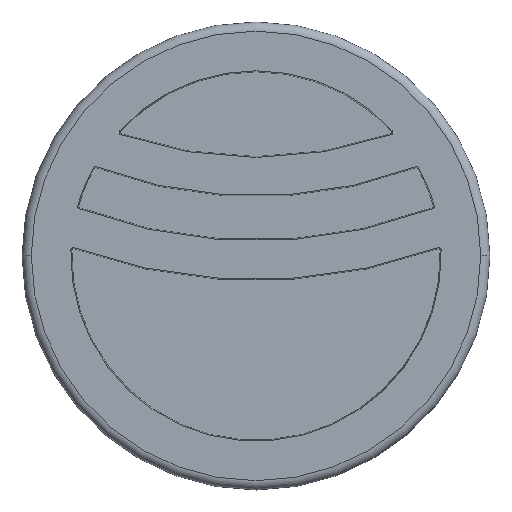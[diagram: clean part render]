
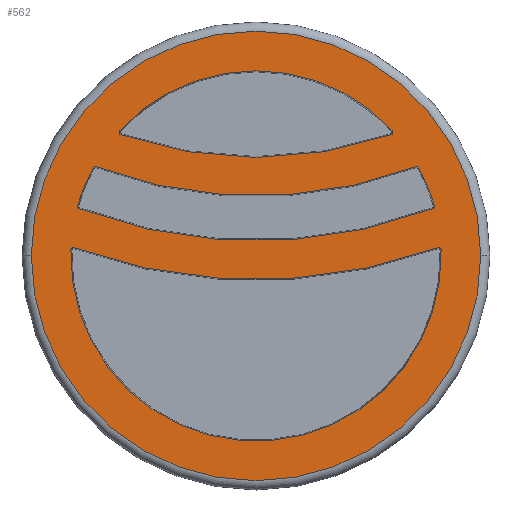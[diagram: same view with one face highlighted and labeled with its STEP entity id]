
A CAD part, top view. The second image highlights one B-rep face of the part: STEP entity #562.
In plain terms, the highlighted planar face has unit normal (0, 0, 1).
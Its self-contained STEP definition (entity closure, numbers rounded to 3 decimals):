
#77=CARTESIAN_POINT('',(-8.714,4.699,1.5));
#78=DIRECTION('',(0.,0.,-1.));
#79=DIRECTION('',(-0.88,0.475,0.));
#80=AXIS2_PLACEMENT_3D('',#77,#78,#79);
#119=CARTESIAN_POINT('',(0.,0.,1.5));
#120=DIRECTION('',(0.,0.,-1.));
#121=DIRECTION('',(1.,0.03,0.));
#122=AXIS2_PLACEMENT_3D('',#119,#120,#121);
#124=CARTESIAN_POINT('',(-9.523,2.706,1.5));
#125=DIRECTION('',(0.,0.,-1.));
#126=DIRECTION('',(-0.355,-0.935,0.));
#127=AXIS2_PLACEMENT_3D('',#124,#125,#126);
#137=CARTESIAN_POINT('',(9.523,2.706,1.5));
#138=DIRECTION('',(0.,0.,-1.));
#139=DIRECTION('',(0.962,0.273,0.));
#140=AXIS2_PLACEMENT_3D('',#137,#138,#139);
#142=CARTESIAN_POINT('',(0.,0.,1.5));
#143=DIRECTION('',(0.,0.,1.));
#144=DIRECTION('',(-1.,0.,0.));
#145=AXIS2_PLACEMENT_3D('',#142,#143,#144);
#147=CARTESIAN_POINT('',(0.,0.,1.5));
#148=DIRECTION('',(0.,0.,1.));
#149=DIRECTION('',(1.,0.,0.));
#150=AXIS2_PLACEMENT_3D('',#147,#148,#149);
#152=CARTESIAN_POINT('',(0.,0.,1.5));
#153=DIRECTION('',(0.,0.,-1.));
#154=DIRECTION('',(-0.734,0.679,0.));
#155=AXIS2_PLACEMENT_3D('',#152,#153,#154);
#157=CARTESIAN_POINT('',(0.,27.8,1.5));
#158=DIRECTION('',(0.,0.,-1.));
#159=DIRECTION('',(0.326,-0.945,0.));
#160=AXIS2_PLACEMENT_3D('',#157,#158,#159);
#162=CARTESIAN_POINT('',(0.,0.,1.5));
#163=DIRECTION('',(0.,0.,-1.));
#164=DIRECTION('',(0.88,0.475,0.));
#165=AXIS2_PLACEMENT_3D('',#162,#163,#164);
#167=CARTESIAN_POINT('',(0.,27.8,1.5));
#168=DIRECTION('',(0.,0.,1.));
#169=DIRECTION('',(-0.353,-0.936,0.));
#170=AXIS2_PLACEMENT_3D('',#167,#168,#169);
#172=CARTESIAN_POINT('',(0.,0.,1.5));
#173=DIRECTION('',(0.,0.,-1.));
#174=DIRECTION('',(-0.962,0.273,0.));
#175=AXIS2_PLACEMENT_3D('',#172,#173,#174);
#177=CARTESIAN_POINT('',(0.,27.8,1.5));
#178=DIRECTION('',(0.,0.,-1.));
#179=DIRECTION('',(0.355,-0.935,0.));
#180=AXIS2_PLACEMENT_3D('',#177,#178,#179);
#182=CARTESIAN_POINT('',(0.,27.8,1.5));
#183=DIRECTION('',(0.,0.,1.));
#184=DIRECTION('',(-0.339,-0.941,0.));
#185=AXIS2_PLACEMENT_3D('',#182,#183,#184);
#225=CARTESIAN_POINT('',(-7.271,6.719,1.5));
#226=DIRECTION('',(0.,0.,-1.));
#227=DIRECTION('',(-0.326,-0.945,0.));
#228=AXIS2_PLACEMENT_3D('',#225,#226,#227);
#238=CARTESIAN_POINT('',(7.271,6.719,1.5));
#239=DIRECTION('',(0.,0.,-1.));
#240=DIRECTION('',(0.734,0.679,0.));
#241=AXIS2_PLACEMENT_3D('',#238,#239,#240);
#243=CARTESIAN_POINT('',(8.714,4.699,1.5));
#244=DIRECTION('',(0.,0.,-1.));
#245=DIRECTION('',(-0.353,0.936,0.));
#246=AXIS2_PLACEMENT_3D('',#243,#244,#245);
#264=CARTESIAN_POINT('',(-9.896,0.296,1.5));
#265=DIRECTION('',(0.,0.,-1.));
#266=DIRECTION('',(-1.,0.03,0.));
#267=AXIS2_PLACEMENT_3D('',#264,#265,#266);
#269=CARTESIAN_POINT('',(9.896,0.296,1.5));
#270=DIRECTION('',(0.,0.,-1.));
#271=DIRECTION('',(-0.339,0.941,0.));
#272=AXIS2_PLACEMENT_3D('',#269,#270,#271);
#278=CARTESIAN_POINT('',(-12.2,0.,1.5));
#279=CARTESIAN_POINT('',(12.2,0.,1.5));
#280=VERTEX_POINT('',#278);
#281=VERTEX_POINT('',#279);
#290=CARTESIAN_POINT('',(-8.848,4.771,1.5));
#291=VERTEX_POINT('',#290);
#292=CARTESIAN_POINT('',(-8.66,4.841,1.5));
#293=VERTEX_POINT('',#292);
#295=CARTESIAN_POINT('',(-7.383,6.822,1.5));
#297=VERTEX_POINT('',#295);
#300=CARTESIAN_POINT('',(-7.321,6.575,1.5));
#301=VERTEX_POINT('',#300);
#306=CARTESIAN_POINT('',(7.383,6.822,1.5));
#307=VERTEX_POINT('',#306);
#308=CARTESIAN_POINT('',(7.321,6.575,1.5));
#309=VERTEX_POINT('',#308);
#311=CARTESIAN_POINT('',(8.848,4.771,1.5));
#313=VERTEX_POINT('',#311);
#316=CARTESIAN_POINT('',(8.66,4.841,1.5));
#317=VERTEX_POINT('',#316);
#322=CARTESIAN_POINT('',(-9.67,2.748,1.5));
#323=VERTEX_POINT('',#322);
#324=CARTESIAN_POINT('',(9.67,2.748,1.5));
#325=VERTEX_POINT('',#324);
#330=CARTESIAN_POINT('',(-10.048,0.301,1.5));
#331=VERTEX_POINT('',#330);
#332=CARTESIAN_POINT('',(-9.844,0.439,1.5));
#333=VERTEX_POINT('',#332);
#336=CARTESIAN_POINT('',(-9.577,2.564,1.5));
#337=VERTEX_POINT('',#336);
#339=CARTESIAN_POINT('',(10.048,0.301,1.5));
#341=VERTEX_POINT('',#339);
#344=CARTESIAN_POINT('',(9.844,0.439,1.5));
#345=VERTEX_POINT('',#344);
#348=CARTESIAN_POINT('',(9.577,2.564,1.5));
#349=VERTEX_POINT('',#348);
#521=CARTESIAN_POINT('',(0.,0.,1.5));
#522=DIRECTION('',(0.,0.,1.));
#523=DIRECTION('',(1.,0.,0.));
#524=AXIS2_PLACEMENT_3D('',#521,#522,#523);
#525=PLANE('',#524);
#527=ORIENTED_EDGE('',*,*,#526,.F.);
#529=ORIENTED_EDGE('',*,*,#528,.F.);
#530=EDGE_LOOP('',(#527,#529));
#531=FACE_OUTER_BOUND('',#530,.F.);
#532=ORIENTED_EDGE('',*,*,#442,.F.);
#534=ORIENTED_EDGE('',*,*,#533,.F.);
#536=ORIENTED_EDGE('',*,*,#535,.F.);
#538=ORIENTED_EDGE('',*,*,#537,.F.);
#539=EDGE_LOOP('',(#532,#534,#536,#538));
#540=FACE_BOUND('',#539,.F.);
#541=ORIENTED_EDGE('',*,*,#457,.F.);
#543=ORIENTED_EDGE('',*,*,#542,.F.);
#545=ORIENTED_EDGE('',*,*,#544,.F.);
#546=ORIENTED_EDGE('',*,*,#414,.F.);
#547=ORIENTED_EDGE('',*,*,#430,.F.);
#548=ORIENTED_EDGE('',*,*,#489,.F.);
#549=ORIENTED_EDGE('',*,*,#503,.F.);
#550=ORIENTED_EDGE('',*,*,#515,.F.);
#551=EDGE_LOOP('',(#541,#543,#545,#546,#547,#548,#549,#550));
#552=FACE_BOUND('',#551,.F.);
#554=ORIENTED_EDGE('',*,*,#553,.F.);
#556=ORIENTED_EDGE('',*,*,#555,.F.);
#557=ORIENTED_EDGE('',*,*,#475,.F.);
#559=ORIENTED_EDGE('',*,*,#558,.F.);
#560=EDGE_LOOP('',(#554,#556,#557,#559));
#561=FACE_BOUND('',#560,.F.);
#562=ADVANCED_FACE('',(#531,#540,#552,#561),#525,.T.);
#81=CIRCLE('',#80,0.152);
#123=CIRCLE('',#122,10.052);
#128=CIRCLE('',#127,0.152);
#141=CIRCLE('',#140,0.152);
#146=CIRCLE('',#145,12.2);
#151=CIRCLE('',#150,12.2);
#156=CIRCLE('',#155,10.052);
#161=CIRCLE('',#160,22.452);
#166=CIRCLE('',#165,10.052);
#171=CIRCLE('',#170,24.538);
#176=CIRCLE('',#175,10.052);
#181=CIRCLE('',#180,26.992);
#186=CIRCLE('',#185,29.078);
#229=CIRCLE('',#228,0.152);
#242=CIRCLE('',#241,0.152);
#247=CIRCLE('',#246,0.152);
#268=CIRCLE('',#267,0.152);
#273=CIRCLE('',#272,0.152);
#414=EDGE_CURVE('',#291,#293,#81,.T.);
#430=EDGE_CURVE('',#323,#291,#176,.T.);
#442=EDGE_CURVE('',#297,#307,#156,.T.);
#457=EDGE_CURVE('',#313,#325,#166,.T.);
#475=EDGE_CURVE('',#341,#331,#123,.T.);
#489=EDGE_CURVE('',#337,#323,#128,.T.);
#503=EDGE_CURVE('',#349,#337,#181,.T.);
#515=EDGE_CURVE('',#325,#349,#141,.T.);
#526=EDGE_CURVE('',#280,#281,#146,.T.);
#528=EDGE_CURVE('',#281,#280,#151,.T.);
#533=EDGE_CURVE('',#301,#297,#229,.T.);
#535=EDGE_CURVE('',#309,#301,#161,.T.);
#537=EDGE_CURVE('',#307,#309,#242,.T.);
#542=EDGE_CURVE('',#317,#313,#247,.T.);
#544=EDGE_CURVE('',#293,#317,#171,.T.);
#553=EDGE_CURVE('',#333,#345,#186,.T.);
#555=EDGE_CURVE('',#331,#333,#268,.T.);
#558=EDGE_CURVE('',#345,#341,#273,.T.);
